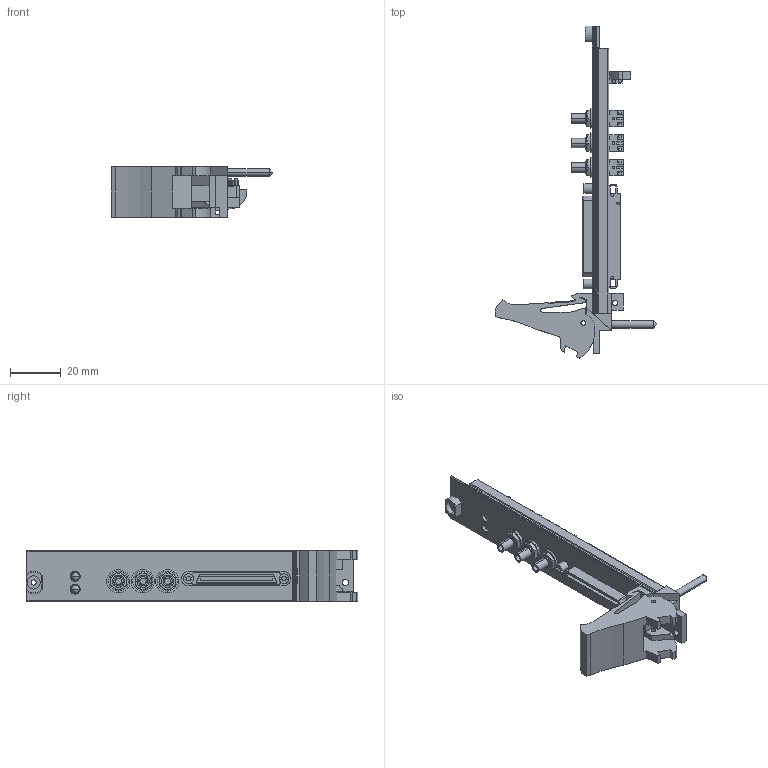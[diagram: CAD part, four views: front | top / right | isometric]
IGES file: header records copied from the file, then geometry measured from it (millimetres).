
Start section:  PTC IGES file: cu_pxi-6542.igs
Global section: file name: cu_pxi-6542.igs; native system: Pro/ENGINEER by Parametric Technology Corporation; preprocessor: 2006080; author: lmcdanie; organization: Unknown; date: 070806.130912; units: inch
Bounding box: 63.53 x 130.51 x 20.02 mm (x, y, z)
Surface area: 18036.4 mm2 (no closed solid volume)
Topology: 0 solids, 0 shells, 669 faces, 3520 edges, 3516 vertices
Faces by surface type: bspline 447, revolution 222
